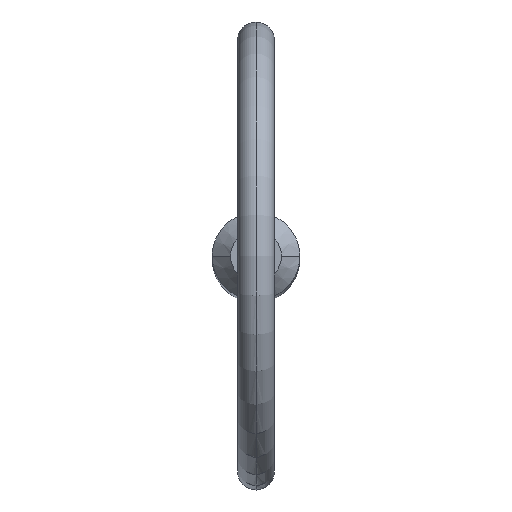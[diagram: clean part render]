
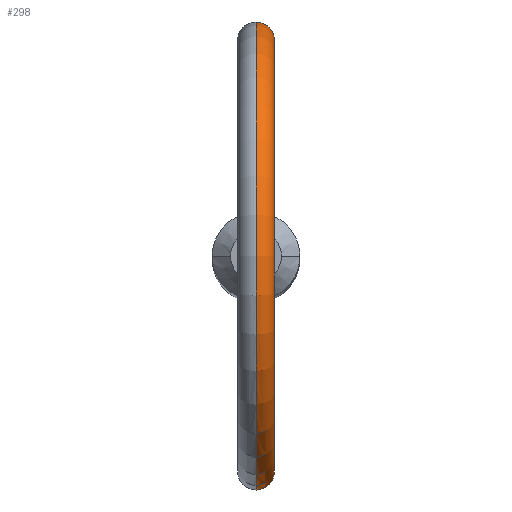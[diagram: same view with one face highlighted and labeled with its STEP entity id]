
A CAD part, top view. The second image highlights one B-rep face of the part: STEP entity #298.
In plain terms, the highlighted toroidal (fillet/blend) face has major radius 11.7 mm and minor radius 1 mm.
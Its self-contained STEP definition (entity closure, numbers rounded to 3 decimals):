
#2 = CARTESIAN_POINT ( 'NONE',  ( 0.981, 2.169, 74.662 ) ) ;
#5 = CARTESIAN_POINT ( 'NONE',  ( 1.003, 2.158, 74.797 ) ) ;
#18 = DIRECTION ( 'NONE',  ( 0., 0., -1. ) ) ;
#39 = CARTESIAN_POINT ( 'NONE',  ( 1.003, -2.158, 74.799 ) ) ;
#41 = CARTESIAN_POINT ( 'NONE',  ( 0.268, -2.368, 73.951 ) ) ;
#43 = CARTESIAN_POINT ( 'NONE',  ( 0.509, 2.328, 75.824 ) ) ;
#46 = CARTESIAN_POINT ( 'NONE',  ( 0.134, 2.38, 75.968 ) ) ;
#48 = B_SPLINE_CURVE_WITH_KNOTS ( 'NONE', 3,
 ( #117, #276, #387, #346, #349, #202, #200, #2, #5, #280, #381, #415, #351, #116, #43, #75, #46, #234 ),
 .UNSPECIFIED., .F., .F.,
 ( 4, 2, 2, 2, 2, 2, 2, 2, 4 ),
 ( 0.001, 0.001, 0.001, 0.002, 0.002, 0.003, 0.003, 0.003, 0.004 ),
 .UNSPECIFIED. ) ;
#55 = CIRCLE ( 'NONE', #223, 12.7 ) ;
#75 = CARTESIAN_POINT ( 'NONE',  ( 0.267, 2.368, 75.937 ) ) ;
#81 = CARTESIAN_POINT ( 'NONE',  ( 0.133, -2.38, 73.925 ) ) ;
#82 = CARTESIAN_POINT ( 'NONE',  ( 0.966, -2.176, 75.197 ) ) ;
#86 = EDGE_CURVE ( 'NONE', #324, #96, #48, .T. ) ;
#96 = VERTEX_POINT ( 'NONE', #440 ) ;
#106 = ORIENTED_EDGE ( 'NONE', *, *, #314, .T. ) ;
#107 = AXIS2_PLACEMENT_3D ( 'NONE', #360, #221, #220 ) ;
#113 = EDGE_CURVE ( 'NONE', #357, #192, #208, .T. ) ;
#116 = CARTESIAN_POINT ( 'NONE',  ( 0.614, 2.301, 75.745 ) ) ;
#117 = CARTESIAN_POINT ( 'NONE',  ( 0., 2.38, 73.925 ) ) ;
#121 = CARTESIAN_POINT ( 'NONE',  ( 0.811, -2.24, 74.306 ) ) ;
#129 = CARTESIAN_POINT ( 'NONE',  ( 0., -2.38, 73.925 ) ) ;
#130 = EDGE_LOOP ( 'NONE', ( #439, #106, #273, #156 ) ) ;
#156 = ORIENTED_EDGE ( 'NONE', *, *, #333, .F. ) ;
#157 = CARTESIAN_POINT ( 'NONE',  ( 0.615, -2.301, 75.744 ) ) ;
#159 = CARTESIAN_POINT ( 'NONE',  ( 0.865, -2.218, 75.44 ) ) ;
#163 = CARTESIAN_POINT ( 'NONE',  ( 0.625, -2.299, 74.121 ) ) ;
#192 = VERTEX_POINT ( 'NONE', #129 ) ;
#200 = CARTESIAN_POINT ( 'NONE',  ( 0.884, 2.21, 74.417 ) ) ;
#202 = CARTESIAN_POINT ( 'NONE',  ( 0.811, 2.24, 74.306 ) ) ;
#208 = B_SPLINE_CURVE_WITH_KNOTS ( 'NONE', 3,
 ( #445, #317, #235, #282, #157, #384, #159, #82, #475, #39, #313, #343, #121, #163, #413, #41, #81, #417 ),
 .UNSPECIFIED., .F., .F.,
 ( 4, 2, 2, 2, 2, 2, 2, 2, 4 ),
 ( 0.003, 0.003, 0.003, 0.004, 0.004, 0.005, 0.005, 0.005, 0.006 ),
 .UNSPECIFIED. ) ;
#214 = DIRECTION ( 'NONE',  ( 1., 0., 0. ) ) ;
#220 = DIRECTION ( 'NONE',  ( 0., 0., -1. ) ) ;
#221 = DIRECTION ( 'NONE',  ( 1., 0., 0. ) ) ;
#223 = AXIS2_PLACEMENT_3D ( 'NONE', #431, #214, #18 ) ;
#232 = FACE_OUTER_BOUND ( 'NONE', #130, .T. ) ;
#234 = CARTESIAN_POINT ( 'NONE',  ( 0., 2.38, 75.968 ) ) ;
#235 = CARTESIAN_POINT ( 'NONE',  ( 0.268, -2.368, 75.937 ) ) ;
#249 = DIRECTION ( 'NONE',  ( 0., 0., -1. ) ) ;
#273 = ORIENTED_EDGE ( 'NONE', *, *, #113, .F. ) ;
#274 = AXIS2_PLACEMENT_3D ( 'NONE', #423, #394, #249 ) ;
#276 = CARTESIAN_POINT ( 'NONE',  ( 0.133, 2.38, 73.925 ) ) ;
#280 = CARTESIAN_POINT ( 'NONE',  ( 0.996, 2.162, 75.064 ) ) ;
#282 = CARTESIAN_POINT ( 'NONE',  ( 0.508, -2.328, 75.824 ) ) ;
#294 = CARTESIAN_POINT ( 'NONE',  ( 0., 2.38, 73.925 ) ) ;
#298 = ADVANCED_FACE ( 'NONE', ( #232 ), #375, .T. ) ;
#313 = CARTESIAN_POINT ( 'NONE',  ( 0.981, -2.169, 74.664 ) ) ;
#314 = EDGE_CURVE ( 'NONE', #324, #192, #55, .T. ) ;
#317 = CARTESIAN_POINT ( 'NONE',  ( 0.134, -2.38, 75.968 ) ) ;
#324 = VERTEX_POINT ( 'NONE', #294 ) ;
#333 = EDGE_CURVE ( 'NONE', #96, #357, #391, .T. ) ;
#343 = CARTESIAN_POINT ( 'NONE',  ( 0.885, -2.21, 74.417 ) ) ;
#346 = CARTESIAN_POINT ( 'NONE',  ( 0.513, 2.327, 74.049 ) ) ;
#349 = CARTESIAN_POINT ( 'NONE',  ( 0.625, 2.299, 74.121 ) ) ;
#351 = CARTESIAN_POINT ( 'NONE',  ( 0.793, 2.246, 75.553 ) ) ;
#357 = VERTEX_POINT ( 'NONE', #397 ) ;
#360 = CARTESIAN_POINT ( 'NONE',  ( 0., 0., 86.4 ) ) ;
#375 = TOROIDAL_SURFACE ( 'NONE', #274, 11.7, 1. ) ;
#381 = CARTESIAN_POINT ( 'NONE',  ( 0.966, 2.176, 75.197 ) ) ;
#384 = CARTESIAN_POINT ( 'NONE',  ( 0.793, -2.246, 75.552 ) ) ;
#387 = CARTESIAN_POINT ( 'NONE',  ( 0.267, 2.368, 73.95 ) ) ;
#391 = CIRCLE ( 'NONE', #107, 10.7 ) ;
#394 = DIRECTION ( 'NONE',  ( 1., 0., 0. ) ) ;
#397 = CARTESIAN_POINT ( 'NONE',  ( 0., -2.38, 75.968 ) ) ;
#413 = CARTESIAN_POINT ( 'NONE',  ( 0.513, -2.327, 74.048 ) ) ;
#415 = CARTESIAN_POINT ( 'NONE',  ( 0.864, 2.218, 75.441 ) ) ;
#417 = CARTESIAN_POINT ( 'NONE',  ( 0., -2.38, 73.925 ) ) ;
#423 = CARTESIAN_POINT ( 'NONE',  ( 0., 0., 86.4 ) ) ;
#431 = CARTESIAN_POINT ( 'NONE',  ( 0., 0., 86.4 ) ) ;
#439 = ORIENTED_EDGE ( 'NONE', *, *, #86, .F. ) ;
#440 = CARTESIAN_POINT ( 'NONE',  ( 0., 2.38, 75.968 ) ) ;
#445 = CARTESIAN_POINT ( 'NONE',  ( 0., -2.38, 75.968 ) ) ;
#475 = CARTESIAN_POINT ( 'NONE',  ( 0.996, -2.162, 75.064 ) ) ;
